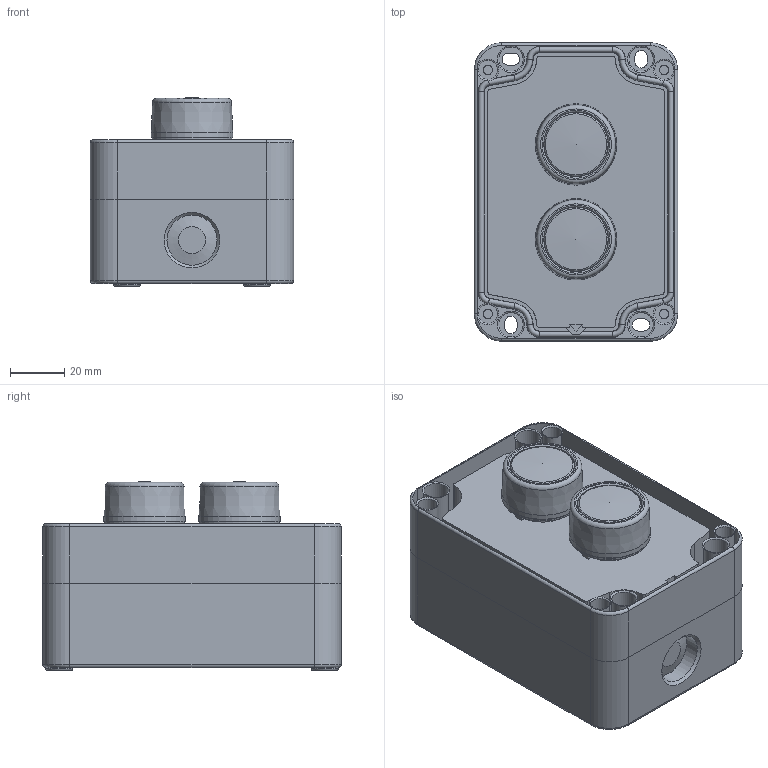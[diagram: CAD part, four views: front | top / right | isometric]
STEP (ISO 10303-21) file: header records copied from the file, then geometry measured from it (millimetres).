
FILE_DESCRIPTION(/* description */ (''),/* implementation_level */ '2;1');
FILE_NAME(/* name */ '4005767.stp',/* time_stamp */ '2019-03-01T20:15:20+01:00',/* author */ (''),/* organization */ (''),/* preprocessor_version */ 'ST-DEVELOPER v16.7',/* originating_system */ 'SIEMENS PLM Software NX 12.0',/* authorisation */ '');
FILE_SCHEMA (('AUTOMOTIVE_DESIGN { 1 0 10303 214 3 1 1 1 }'));
Products named in the file (1): bsom23CC53FBqfm2
Bounding box: 75 x 110 x 69.5 mm (x, y, z)
Volume: 165556.3 mm3; surface area: 97856.6 mm2
Topology: 10 solids, 10 shells, 20768 faces, 33742 edges, 13021 vertices
Faces by surface type: plane 19784, cylinder 822, cone 88, torus 72, sphere 2
Full cylindrical faces by diameter (mm): 3.3 x4, 3.5 x4, 4.5 x8, 7 x4, 9 x8, 10 x4, 16.5 x2, 18.5 x2, 22 x4, 22.5 x2, 23.5 x2, 24 x2, 27 x2, 28.2 x2, 29.5 x2, 30 x2
Entity records: 576449 total; most frequent: DIRECTION 75598, CARTESIAN_POINT 71287, ORIENTED_EDGE 67252, EDGE_CURVE 33626, LINE 30896, VECTOR 30896, AXIS2_PLACEMENT_3D 22351, EDGE_LOOP 20922
